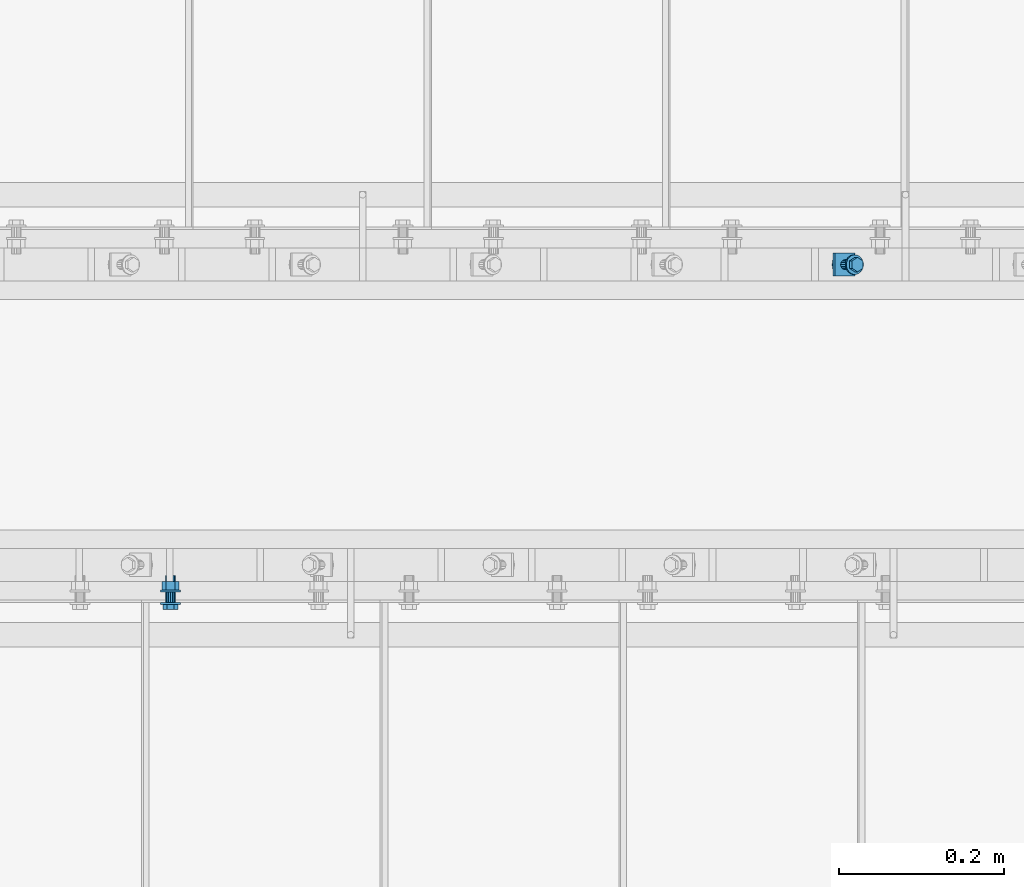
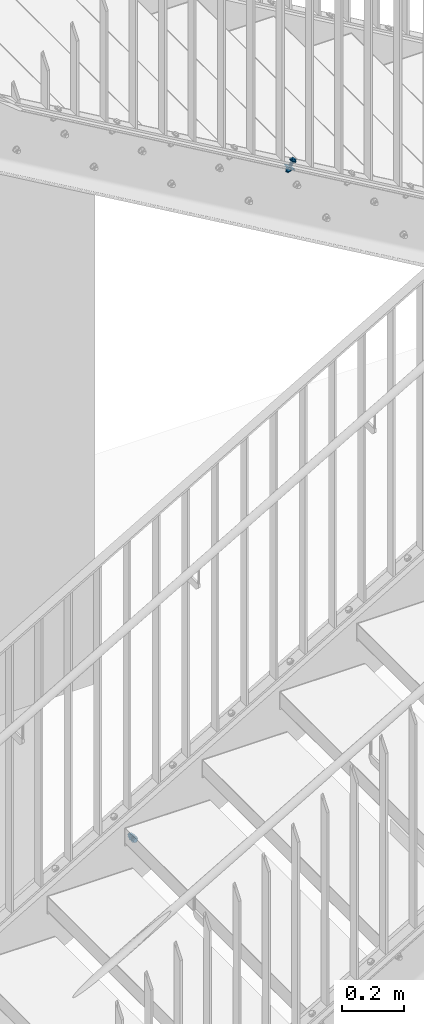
# One storey, part 85 of 145: 2 mechanical fasteners.
"""IFC2X3 building model written with IfcOpenShell, lengths in millimetres."""

from ifc_helpers import new_model, entity, si_unit, converted_unit, origin_with_axes, place, context, project, spatial, faceted_brep, element, save


model = new_model("IFC2X3")

# Units and contexts
model_context = context("Model", 3, precision=1e-09, world=origin_with_axes())
ifc_project = project(units=[si_unit("LENGTHUNIT", "METRE", prefix="MILLI"), si_unit("AREAUNIT", "SQUARE_METRE"), si_unit("VOLUMEUNIT", "CUBIC_METRE"), converted_unit("PLANEANGLEUNIT", "DEGREE", entity("IfcPlaneAngleMeasure", 0.01745329), si_unit("PLANEANGLEUNIT", "RADIAN"), dimensions=[0, 0, 0, 0, 0, 0, 0])], contexts=[model_context])

# Site, building, storey
site_placement = place(None, origin_with_axes())
site = spatial("IfcSite", under=ifc_project, at=site_placement, Name="BZ1 Grund- und Mittelschule 85716 Unterschlei?heim", CompositionType="ELEMENT")
building_placement = place(site_placement, origin_with_axes())
building = spatial("IfcBuilding", under=site, at=building_placement, Name="Struktur 1", CompositionType="ELEMENT")
storey_placement = place(building_placement, origin_with_axes())
storey = spatial("IfcBuildingStorey", under=building, at=storey_placement, Name="Default Storey", CompositionType="ELEMENT", Elevation=0.0)

# Mechanical fasteners
mechanical_fastener_1_placement = place(None, origin_with_axes())
element("IfcMechanicalFastener", 1, at=mechanical_fastener_1_placement, inside=storey, ObjectType="-", NominalDiameter=12.0, NominalLength=45.0, context=model_context, shape_type="Brep", body=[
    faceted_brep([(18700.736880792, -1512.502, 2468.872282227), (18701.993608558, -1512.502, 2471.033447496), (18701.794282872, -1514.843083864, 2471.14935632), (18700.537555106, -1514.843083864, 2468.988191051), (18701.203965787, -1517.094201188, 2471.49262848), (18699.947238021, -1517.094201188, 2469.331463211), (18700.245342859, -1519.168842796, 2472.050072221), (18698.988615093, -1519.168842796, 2469.888906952), (18698.955253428, -1520.987281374, 2472.800265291), (18697.698525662, -1520.987281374, 2470.639100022), (18697.383274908, -1522.479635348, 2473.714378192), (18696.126547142, -1522.479635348, 2471.553212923), (18695.589817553, -1523.58855439, 2474.757282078), (18694.333089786, -1523.58855439, 2472.596116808), (18693.643802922, -1524.271423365, 2475.888898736), (18692.387075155, -1524.271423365, 2473.727733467), (18691.620015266, -1524.502, 2477.065740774), (18690.363287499, -1524.502, 2474.904575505), (18689.59622761, -1524.271423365, 2478.242582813), (18688.339499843, -1524.271423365, 2476.081417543), (18687.650212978, -1523.58855439, 2479.374199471), (18686.393485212, -1523.58855439, 2477.213034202), (18685.856755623, -1522.479635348, 2480.417103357), (18684.600027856, -1522.479635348, 2478.255938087), (18684.284777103, -1520.987281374, 2481.331216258), (18683.028049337, -1520.987281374, 2479.170050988), (18682.994687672, -1519.168842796, 2482.081409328), (18681.737959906, -1519.168842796, 2479.920244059), (18682.036064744, -1517.094201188, 2482.638853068), (18680.779336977, -1517.094201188, 2480.477687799), (18681.445747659, -1514.843083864, 2482.982125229), (18680.189019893, -1514.843083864, 2480.82095996), (18681.246421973, -1512.502, 2483.098034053), (18679.989694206, -1512.502, 2480.936868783), (18681.445747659, -1510.160916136, 2482.982125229), (18680.189019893, -1510.160916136, 2480.82095996), (18682.036064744, -1507.909798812, 2482.638853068), (18680.779336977, -1507.909798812, 2480.477687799), (18682.994687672, -1505.835157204, 2482.081409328), (18681.737959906, -1505.835157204, 2479.920244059), (18684.284777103, -1504.016718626, 2481.331216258), (18683.028049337, -1504.016718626, 2479.170050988), (18685.856755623, -1502.524364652, 2480.417103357), (18684.600027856, -1502.524364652, 2478.255938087), (18687.650212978, -1501.41544561, 2479.374199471), (18686.393485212, -1501.41544561, 2477.213034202), (18689.59622761, -1500.732576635, 2478.242582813), (18688.339499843, -1500.732576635, 2476.081417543), (18691.620015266, -1500.502, 2477.065740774), (18690.363287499, -1500.502, 2474.904575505), (18693.643802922, -1500.732576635, 2475.888898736), (18692.387075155, -1500.732576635, 2473.727733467), (18695.589817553, -1501.41544561, 2474.757282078), (18694.333089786, -1501.41544561, 2472.596116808), (18697.383274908, -1502.524364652, 2473.714378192), (18696.126547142, -1502.524364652, 2471.553212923), (18698.955253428, -1504.016718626, 2472.800265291), (18697.698525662, -1504.016718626, 2470.639100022), (18700.245342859, -1505.835157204, 2472.050072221), (18698.988615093, -1505.835157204, 2469.888906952), (18701.203965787, -1507.909798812, 2471.49262848), (18699.947238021, -1507.909798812, 2469.331463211), (18701.794282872, -1510.160916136, 2471.14935632), (18700.537555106, -1510.160916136, 2468.988191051)], [[[0, 1, 2, 3]], [[3, 2, 4, 5]], [[5, 4, 6, 7]], [[7, 6, 8, 9]], [[9, 8, 10, 11]], [[11, 10, 12, 13]], [[13, 12, 14, 15]], [[15, 14, 16, 17]], [[17, 16, 18, 19]], [[19, 18, 20, 21]], [[21, 20, 22, 23]], [[23, 22, 24, 25]], [[25, 24, 26, 27]], [[27, 26, 28, 29]], [[29, 28, 30, 31]], [[31, 30, 32, 33]], [[33, 32, 34, 35]], [[35, 34, 36, 37]], [[37, 36, 38, 39]], [[39, 38, 40, 41]], [[41, 40, 42, 43]], [[43, 42, 44, 45]], [[45, 44, 46, 47]], [[47, 46, 48, 49]], [[49, 48, 50, 51]], [[51, 50, 52, 53]], [[53, 52, 54, 55]], [[55, 54, 56, 57]], [[57, 56, 58, 59]], [[59, 58, 60, 61]], [[61, 60, 62, 63]], [[63, 62, 1, 0]], [[2, 1, 62, 60, 58, 56, 54, 52, 50, 48, 46, 44, 42, 40, 38, 36, 34, 32, 30, 28, 26, 24, 22, 20, 18, 16, 14, 12, 10, 8, 6, 4]], [[63, 0, 3, 5, 7, 9, 11, 13, 15, 17, 19, 21, 23, 25, 27, 29, 31, 33, 35, 37, 39, 41, 43, 45, 47, 49, 51, 53, 55, 57, 59, 61]]]),
    faceted_brep([(18688.185486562, -1516.9445, 2486.466348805), (18684.968263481, -1516.9445, 2480.933765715), (18691.620015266, -1521.387, 2477.065740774), (18694.837238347, -1521.387, 2482.598323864), (18698.27176705, -1516.9445, 2473.197715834), (18701.488990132, -1516.9445, 2478.730298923), (18698.27176705, -1508.0595, 2473.197715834), (18701.488990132, -1508.0595, 2478.730298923), (18691.620015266, -1503.617, 2477.065740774), (18694.837238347, -1503.617, 2482.598323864), (18684.968263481, -1508.0595, 2480.933765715), (18688.185486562, -1508.0595, 2486.466348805)], [[[0, 1, 2, 3]], [[3, 2, 4, 5]], [[5, 4, 6, 7]], [[7, 6, 8, 9]], [[9, 8, 10, 11]], [[11, 10, 1, 0]], [[3, 5, 7, 9, 11, 0]], [[2, 1, 10, 8, 6, 4]]]),
    faceted_brep([(18684.650322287, -1512.502, 2453.144363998), (18695.550084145, -1512.502, 2471.888428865), (18695.15526276, -1514.798100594, 2472.118019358), (18684.255500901, -1514.798100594, 2453.37395449), (18694.03090658, -1516.744640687, 2472.771837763), (18683.131144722, -1516.744640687, 2454.027772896), (18692.348188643, -1518.045277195, 2473.750346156), (18681.448426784, -1518.045277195, 2455.006281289), (18690.363287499, -1518.502, 2474.904575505), (18679.46352564, -1518.502, 2456.160510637), (18688.378386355, -1518.045277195, 2476.058804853), (18677.478624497, -1518.045277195, 2457.314739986), (18686.695668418, -1516.744640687, 2477.037313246), (18675.795906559, -1516.744640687, 2458.293248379), (18685.571312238, -1514.798100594, 2477.691131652), (18674.67155038, -1514.798100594, 2458.947066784), (18685.176490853, -1512.502, 2477.920722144), (18674.276728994, -1512.502, 2459.176657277), (18685.571312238, -1510.205899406, 2477.691131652), (18674.67155038, -1510.205899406, 2458.947066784), (18686.695668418, -1508.259359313, 2477.037313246), (18675.795906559, -1508.259359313, 2458.293248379), (18688.378386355, -1506.958722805, 2476.058804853), (18677.478624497, -1506.958722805, 2457.314739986), (18690.363287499, -1506.502, 2474.904575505), (18679.46352564, -1506.502, 2456.160510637), (18692.348188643, -1506.958722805, 2473.750346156), (18681.448426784, -1506.958722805, 2455.006281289), (18694.03090658, -1508.259359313, 2472.771837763), (18683.131144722, -1508.259359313, 2454.027772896), (18695.15526276, -1510.205899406, 2472.118019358), (18684.255500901, -1510.205899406, 2453.37395449)], [[[0, 1, 2, 3]], [[3, 2, 4, 5]], [[5, 4, 6, 7]], [[7, 6, 8, 9]], [[9, 8, 10, 11]], [[11, 10, 12, 13]], [[13, 12, 14, 15]], [[15, 14, 16, 17]], [[17, 16, 18, 19]], [[19, 18, 20, 21]], [[21, 20, 22, 23]], [[23, 22, 24, 25]], [[25, 24, 26, 27]], [[27, 26, 28, 29]], [[29, 28, 30, 31]], [[31, 30, 1, 0]], [[2, 1, 30, 28, 26, 24, 22, 20, 18, 16, 14, 12, 10, 8, 6, 4]], [[31, 0, 3, 5, 7, 9, 11, 13, 15, 17, 19, 21, 23, 25, 27, 29]]]),
    faceted_brep([(18667.238128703, -1526.644135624, 2463.269636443), (18665.227364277, -1526.644135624, 2459.811772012), (18689.678158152, -1526.644135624, 2445.593520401), (18691.688922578, -1526.644135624, 2449.051384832), (18689.678158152, -1498.359864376, 2445.593520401), (18691.688922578, -1498.359864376, 2449.051384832), (18665.227364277, -1498.359864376, 2459.811772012), (18667.238128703, -1498.359864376, 2463.269636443)], [[[0, 1, 2, 3]], [[3, 2, 4, 5]], [[5, 4, 6, 7]], [[7, 6, 1, 0]], [[3, 5, 7, 0]], [[2, 1, 6, 4]]]),
    faceted_brep([(18669.554507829, -1517.777, 2457.295517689), (18664.527596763, -1517.777, 2448.650856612), (18672.425850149, -1523.052, 2444.057985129), (18677.452761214, -1523.052, 2452.702646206), (18680.324103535, -1517.777, 2439.465113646), (18685.3510146, -1517.777, 2448.109774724), (18680.324103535, -1507.227, 2439.465113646), (18685.3510146, -1507.227, 2448.109774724), (18672.425850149, -1501.952, 2444.057985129), (18677.452761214, -1501.952, 2452.702646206), (18664.527596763, -1507.227, 2448.650856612), (18669.554507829, -1507.227, 2457.295517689)], [[[0, 1, 2, 3]], [[3, 2, 4, 5]], [[5, 4, 6, 7]], [[7, 6, 8, 9]], [[9, 8, 10, 11]], [[11, 10, 1, 0]], [[3, 5, 7, 9, 11, 0]], [[2, 1, 10, 8, 6, 4]]]),
    faceted_brep([(18674.185712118, -1512.502, 2435.148619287), (18677.612646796, -1512.502, 2441.04183849), (18677.21782541, -1514.798100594, 2441.271428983), (18673.790890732, -1514.798100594, 2435.37820978), (18676.093469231, -1516.744640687, 2441.925247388), (18672.666534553, -1516.744640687, 2436.032028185), (18674.410751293, -1518.045277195, 2442.903755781), (18670.983816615, -1518.045277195, 2437.010536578), (18672.425850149, -1518.502, 2444.05798513), (18668.998915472, -1518.502, 2438.164765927), (18670.440949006, -1518.045277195, 2445.212214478), (18667.014014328, -1518.045277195, 2439.318995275), (18668.758231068, -1516.744640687, 2446.190722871), (18665.33129639, -1516.744640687, 2440.297503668), (18667.633874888, -1514.798100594, 2446.844541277), (18664.206940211, -1514.798100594, 2440.951322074), (18667.239053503, -1512.502, 2447.074131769), (18663.812118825, -1512.502, 2441.180912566), (18667.633874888, -1510.205899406, 2446.844541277), (18664.206940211, -1510.205899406, 2440.951322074), (18668.758231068, -1508.259359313, 2446.190722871), (18665.33129639, -1508.259359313, 2440.297503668), (18670.440949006, -1506.958722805, 2445.212214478), (18667.014014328, -1506.958722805, 2439.318995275), (18672.425850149, -1506.502, 2444.05798513), (18668.998915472, -1506.502, 2438.164765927), (18674.410751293, -1506.958722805, 2442.903755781), (18670.983816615, -1506.958722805, 2437.010536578), (18676.093469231, -1508.259359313, 2441.925247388), (18672.666534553, -1508.259359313, 2436.032028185), (18677.21782541, -1510.205899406, 2441.271428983), (18673.790890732, -1510.205899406, 2435.37820978)], [[[0, 1, 2, 3]], [[3, 2, 4, 5]], [[5, 4, 6, 7]], [[7, 6, 8, 9]], [[9, 8, 10, 11]], [[11, 10, 12, 13]], [[13, 12, 14, 15]], [[15, 14, 16, 17]], [[17, 16, 18, 19]], [[19, 18, 20, 21]], [[21, 20, 22, 23]], [[23, 22, 24, 25]], [[25, 24, 26, 27]], [[27, 26, 28, 29]], [[29, 28, 30, 31]], [[31, 30, 1, 0]], [[2, 1, 30, 28, 26, 24, 22, 20, 18, 16, 14, 12, 10, 8, 6, 4]], [[31, 0, 3, 5, 7, 9, 11, 13, 15, 17, 19, 21, 23, 25, 27, 29]]]),
])
mechanical_fastener_2_placement = place(None, origin_with_axes())
element("IfcMechanicalFastener", 2, at=mechanical_fastener_2_placement, inside=storey, ObjectType="-", NominalDiameter=12.0, NominalLength=35.0, context=model_context, shape_type="Brep", body=[
    faceted_brep([(17859.545399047, -1923.002, 316.181818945), (17859.545399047, -1925.502, 316.181818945), (17857.204315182, -1925.502, 316.412395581), (17857.204315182, -1923.002, 316.412395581), (17854.953197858, -1925.502, 317.095264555), (17854.953197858, -1923.002, 317.095264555), (17852.87855625, -1925.502, 318.204183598), (17852.87855625, -1923.002, 318.204183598), (17851.060117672, -1925.502, 319.696537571), (17851.060117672, -1923.002, 319.696537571), (17849.567763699, -1925.502, 321.514976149), (17849.567763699, -1923.002, 321.514976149), (17848.458844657, -1925.502, 323.589617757), (17848.458844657, -1923.002, 323.589617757), (17847.775975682, -1925.502, 325.840735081), (17847.775975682, -1923.002, 325.840735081), (17847.545399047, -1925.502, 328.181818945), (17847.545399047, -1923.002, 328.181818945), (17847.775975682, -1925.502, 330.52290281), (17847.775975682, -1923.002, 330.52290281), (17848.458844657, -1925.502, 332.774020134), (17848.458844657, -1923.002, 332.774020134), (17849.567763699, -1925.502, 334.848661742), (17849.567763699, -1923.002, 334.848661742), (17851.060117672, -1925.502, 336.66710032), (17851.060117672, -1923.002, 336.66710032), (17852.87855625, -1925.502, 338.159454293), (17852.87855625, -1923.002, 338.159454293), (17854.953197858, -1925.502, 339.268373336), (17854.953197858, -1923.002, 339.268373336), (17857.204315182, -1925.502, 339.95124231), (17857.204315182, -1923.002, 339.95124231), (17859.545399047, -1925.502, 340.181818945), (17859.545399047, -1923.002, 340.181818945), (17861.886482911, -1925.502, 339.95124231), (17861.886482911, -1923.002, 339.95124231), (17864.137600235, -1925.502, 339.268373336), (17864.137600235, -1923.002, 339.268373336), (17866.212241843, -1925.502, 338.159454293), (17866.212241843, -1923.002, 338.159454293), (17868.030680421, -1925.502, 336.66710032), (17868.030680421, -1923.002, 336.66710032), (17869.523034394, -1925.502, 334.848661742), (17869.523034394, -1923.002, 334.848661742), (17870.631953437, -1925.502, 332.774020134), (17870.631953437, -1923.002, 332.774020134), (17871.314822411, -1925.502, 330.52290281), (17871.314822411, -1923.002, 330.52290281), (17871.545399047, -1925.502, 328.181818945), (17871.545399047, -1923.002, 328.181818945), (17871.314822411, -1925.502, 325.840735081), (17871.314822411, -1923.002, 325.840735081), (17870.631953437, -1925.502, 323.589617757), (17870.631953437, -1923.002, 323.589617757), (17869.523034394, -1925.502, 321.514976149), (17869.523034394, -1923.002, 321.514976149), (17868.030680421, -1925.502, 319.696537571), (17868.030680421, -1923.002, 319.696537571), (17866.212241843, -1925.502, 318.204183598), (17866.212241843, -1923.002, 318.204183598), (17864.137600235, -1925.502, 317.095264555), (17864.137600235, -1923.002, 317.095264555), (17861.886482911, -1925.502, 316.412395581), (17861.886482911, -1923.002, 316.412395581)], [[[0, 1, 2, 3]], [[3, 2, 4, 5]], [[5, 4, 6, 7]], [[7, 6, 8, 9]], [[9, 8, 10, 11]], [[11, 10, 12, 13]], [[13, 12, 14, 15]], [[15, 14, 16, 17]], [[17, 16, 18, 19]], [[19, 18, 20, 21]], [[21, 20, 22, 23]], [[23, 22, 24, 25]], [[25, 24, 26, 27]], [[27, 26, 28, 29]], [[29, 28, 30, 31]], [[31, 30, 32, 33]], [[33, 32, 34, 35]], [[35, 34, 36, 37]], [[37, 36, 38, 39]], [[39, 38, 40, 41]], [[41, 40, 42, 43]], [[43, 42, 44, 45]], [[45, 44, 46, 47]], [[47, 46, 48, 49]], [[49, 48, 50, 51]], [[51, 50, 52, 53]], [[53, 52, 54, 55]], [[55, 54, 56, 57]], [[57, 56, 58, 59]], [[59, 58, 60, 61]], [[61, 60, 62, 63]], [[63, 62, 1, 0]], [[2, 1, 62, 60, 58, 56, 54, 52, 50, 48, 46, 44, 42, 40, 38, 36, 34, 32, 30, 28, 26, 24, 22, 20, 18, 16, 14, 12, 10, 8, 6, 4]], [[63, 0, 3, 5, 7, 9, 11, 13, 15, 17, 19, 21, 23, 25, 27, 29, 31, 33, 35, 37, 39, 41, 43, 45, 47, 49, 51, 53, 55, 57, 59, 61]]]),
    faceted_brep([(17855.102899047, -1931.902, 335.876454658), (17855.102899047, -1925.502, 335.876454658), (17850.660399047, -1925.502, 328.181818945), (17850.660399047, -1931.902, 328.181818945), (17855.102899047, -1925.502, 320.487183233), (17855.102899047, -1931.902, 320.487183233), (17863.987899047, -1925.502, 320.487183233), (17863.987899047, -1931.902, 320.487183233), (17868.430399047, -1925.502, 328.181818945), (17868.430399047, -1931.902, 328.181818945), (17863.987899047, -1925.502, 335.876454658), (17863.987899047, -1931.902, 335.876454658)], [[[0, 1, 2, 3]], [[3, 2, 4, 5]], [[5, 4, 6, 7]], [[7, 6, 8, 9]], [[9, 8, 10, 11]], [[11, 10, 1, 0]], [[3, 5, 7, 9, 11, 0]], [[2, 1, 10, 8, 6, 4]]]),
    faceted_brep([(17859.545399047, -1910.502, 322.181818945), (17859.545399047, -1923.002, 322.181818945), (17857.249298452, -1923.002, 322.63854175), (17857.249298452, -1910.502, 322.63854175), (17855.30275836, -1923.002, 323.939178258), (17855.30275836, -1910.502, 323.939178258), (17854.002121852, -1923.002, 325.885718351), (17854.002121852, -1910.502, 325.885718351), (17853.545399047, -1923.002, 328.181818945), (17853.545399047, -1910.502, 328.181818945), (17854.002121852, -1923.002, 330.47791954), (17854.002121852, -1910.502, 330.47791954), (17855.30275836, -1923.002, 332.424459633), (17855.30275836, -1910.502, 332.424459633), (17857.249298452, -1923.002, 333.725096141), (17857.249298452, -1910.502, 333.725096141), (17859.545399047, -1923.002, 334.181818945), (17859.545399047, -1910.502, 334.181818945), (17861.841499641, -1923.002, 333.725096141), (17861.841499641, -1910.502, 333.725096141), (17863.788039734, -1923.002, 332.424459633), (17863.788039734, -1910.502, 332.424459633), (17865.088676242, -1923.002, 330.47791954), (17865.088676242, -1910.502, 330.47791954), (17865.545399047, -1923.002, 328.181818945), (17865.545399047, -1910.502, 328.181818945), (17865.088676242, -1923.002, 325.885718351), (17865.088676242, -1910.502, 325.885718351), (17863.788039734, -1923.002, 323.939178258), (17863.788039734, -1910.502, 323.939178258), (17861.841499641, -1923.002, 322.63854175), (17861.841499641, -1910.502, 322.63854175)], [[[0, 1, 2, 3]], [[3, 2, 4, 5]], [[5, 4, 6, 7]], [[7, 6, 8, 9]], [[9, 8, 10, 11]], [[11, 10, 12, 13]], [[13, 12, 14, 15]], [[15, 14, 16, 17]], [[17, 16, 18, 19]], [[19, 18, 20, 21]], [[21, 20, 22, 23]], [[23, 22, 24, 25]], [[25, 24, 26, 27]], [[27, 26, 28, 29]], [[29, 28, 30, 31]], [[31, 30, 1, 0]], [[2, 1, 30, 28, 26, 24, 22, 20, 18, 16, 14, 12, 10, 8, 6, 4]], [[31, 0, 3, 5, 7, 9, 11, 13, 15, 17, 19, 21, 23, 25, 27, 29]]]),
    faceted_brep([(17859.545399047, -1908.002, 316.181818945), (17859.545399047, -1910.502, 316.181818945), (17857.204315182, -1910.502, 316.412395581), (17857.204315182, -1908.002, 316.412395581), (17854.953197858, -1910.502, 317.095264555), (17854.953197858, -1908.002, 317.095264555), (17852.87855625, -1910.502, 318.204183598), (17852.87855625, -1908.002, 318.204183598), (17851.060117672, -1910.502, 319.696537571), (17851.060117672, -1908.002, 319.696537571), (17849.567763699, -1910.502, 321.514976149), (17849.567763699, -1908.002, 321.514976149), (17848.458844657, -1910.502, 323.589617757), (17848.458844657, -1908.002, 323.589617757), (17847.775975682, -1910.502, 325.840735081), (17847.775975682, -1908.002, 325.840735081), (17847.545399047, -1910.502, 328.181818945), (17847.545399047, -1908.002, 328.181818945), (17847.775975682, -1910.502, 330.52290281), (17847.775975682, -1908.002, 330.52290281), (17848.458844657, -1910.502, 332.774020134), (17848.458844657, -1908.002, 332.774020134), (17849.567763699, -1910.502, 334.848661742), (17849.567763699, -1908.002, 334.848661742), (17851.060117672, -1910.502, 336.66710032), (17851.060117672, -1908.002, 336.66710032), (17852.87855625, -1910.502, 338.159454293), (17852.87855625, -1908.002, 338.159454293), (17854.953197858, -1910.502, 339.268373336), (17854.953197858, -1908.002, 339.268373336), (17857.204315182, -1910.502, 339.95124231), (17857.204315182, -1908.002, 339.95124231), (17859.545399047, -1910.502, 340.181818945), (17859.545399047, -1908.002, 340.181818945), (17861.886482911, -1910.502, 339.95124231), (17861.886482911, -1908.002, 339.95124231), (17864.137600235, -1910.502, 339.268373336), (17864.137600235, -1908.002, 339.268373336), (17866.212241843, -1910.502, 338.159454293), (17866.212241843, -1908.002, 338.159454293), (17868.030680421, -1910.502, 336.66710032), (17868.030680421, -1908.002, 336.66710032), (17869.523034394, -1910.502, 334.848661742), (17869.523034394, -1908.002, 334.848661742), (17870.631953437, -1910.502, 332.774020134), (17870.631953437, -1908.002, 332.774020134), (17871.314822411, -1910.502, 330.52290281), (17871.314822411, -1908.002, 330.52290281), (17871.545399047, -1910.502, 328.181818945), (17871.545399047, -1908.002, 328.181818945), (17871.314822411, -1910.502, 325.840735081), (17871.314822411, -1908.002, 325.840735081), (17870.631953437, -1910.502, 323.589617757), (17870.631953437, -1908.002, 323.589617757), (17869.523034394, -1910.502, 321.514976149), (17869.523034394, -1908.002, 321.514976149), (17868.030680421, -1910.502, 319.696537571), (17868.030680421, -1908.002, 319.696537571), (17866.212241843, -1910.502, 318.204183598), (17866.212241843, -1908.002, 318.204183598), (17864.137600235, -1910.502, 317.095264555), (17864.137600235, -1908.002, 317.095264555), (17861.886482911, -1910.502, 316.412395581), (17861.886482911, -1908.002, 316.412395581)], [[[0, 1, 2, 3]], [[3, 2, 4, 5]], [[5, 4, 6, 7]], [[7, 6, 8, 9]], [[9, 8, 10, 11]], [[11, 10, 12, 13]], [[13, 12, 14, 15]], [[15, 14, 16, 17]], [[17, 16, 18, 19]], [[19, 18, 20, 21]], [[21, 20, 22, 23]], [[23, 22, 24, 25]], [[25, 24, 26, 27]], [[27, 26, 28, 29]], [[29, 28, 30, 31]], [[31, 30, 32, 33]], [[33, 32, 34, 35]], [[35, 34, 36, 37]], [[37, 36, 38, 39]], [[39, 38, 40, 41]], [[41, 40, 42, 43]], [[43, 42, 44, 45]], [[45, 44, 46, 47]], [[47, 46, 48, 49]], [[49, 48, 50, 51]], [[51, 50, 52, 53]], [[53, 52, 54, 55]], [[55, 54, 56, 57]], [[57, 56, 58, 59]], [[59, 58, 60, 61]], [[61, 60, 62, 63]], [[63, 62, 1, 0]], [[2, 1, 62, 60, 58, 56, 54, 52, 50, 48, 46, 44, 42, 40, 38, 36, 34, 32, 30, 28, 26, 24, 22, 20, 18, 16, 14, 12, 10, 8, 6, 4]], [[63, 0, 3, 5, 7, 9, 11, 13, 15, 17, 19, 21, 23, 25, 27, 29, 31, 33, 35, 37, 39, 41, 43, 45, 47, 49, 51, 53, 55, 57, 59, 61]]]),
    faceted_brep([(17854.270399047, -1908.002, 337.318386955), (17854.270399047, -1898.002, 337.318386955), (17848.995399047, -1898.002, 328.181818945), (17848.995399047, -1908.002, 328.181818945), (17854.270399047, -1898.002, 319.045250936), (17854.270399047, -1908.002, 319.045250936), (17864.820399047, -1898.002, 319.045250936), (17864.820399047, -1908.002, 319.045250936), (17870.095399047, -1898.002, 328.181818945), (17870.095399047, -1908.002, 328.181818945), (17864.820399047, -1898.002, 337.318386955), (17864.820399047, -1908.002, 337.318386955)], [[[0, 1, 2, 3]], [[3, 2, 4, 5]], [[5, 4, 6, 7]], [[7, 6, 8, 9]], [[9, 8, 10, 11]], [[11, 10, 1, 0]], [[3, 5, 7, 9, 11, 0]], [[2, 1, 10, 8, 6, 4]]]),
    faceted_brep([(17859.545399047, -1890.502, 322.181818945), (17859.545399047, -1898.002, 322.181818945), (17857.249298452, -1898.002, 322.63854175), (17857.249298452, -1890.502, 322.63854175), (17855.30275836, -1898.002, 323.939178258), (17855.30275836, -1890.502, 323.939178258), (17854.002121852, -1898.002, 325.885718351), (17854.002121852, -1890.502, 325.885718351), (17853.545399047, -1898.002, 328.181818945), (17853.545399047, -1890.502, 328.181818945), (17854.002121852, -1898.002, 330.47791954), (17854.002121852, -1890.502, 330.47791954), (17855.30275836, -1898.002, 332.424459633), (17855.30275836, -1890.502, 332.424459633), (17857.249298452, -1898.002, 333.725096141), (17857.249298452, -1890.502, 333.725096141), (17859.545399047, -1898.002, 334.181818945), (17859.545399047, -1890.502, 334.181818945), (17861.841499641, -1898.002, 333.725096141), (17861.841499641, -1890.502, 333.725096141), (17863.788039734, -1898.002, 332.424459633), (17863.788039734, -1890.502, 332.424459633), (17865.088676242, -1898.002, 330.47791954), (17865.088676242, -1890.502, 330.47791954), (17865.545399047, -1898.002, 328.181818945), (17865.545399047, -1890.502, 328.181818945), (17865.088676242, -1898.002, 325.885718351), (17865.088676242, -1890.502, 325.885718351), (17863.788039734, -1898.002, 323.939178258), (17863.788039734, -1890.502, 323.939178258), (17861.841499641, -1898.002, 322.63854175), (17861.841499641, -1890.502, 322.63854175)], [[[0, 1, 2, 3]], [[3, 2, 4, 5]], [[5, 4, 6, 7]], [[7, 6, 8, 9]], [[9, 8, 10, 11]], [[11, 10, 12, 13]], [[13, 12, 14, 15]], [[15, 14, 16, 17]], [[17, 16, 18, 19]], [[19, 18, 20, 21]], [[21, 20, 22, 23]], [[23, 22, 24, 25]], [[25, 24, 26, 27]], [[27, 26, 28, 29]], [[29, 28, 30, 31]], [[31, 30, 1, 0]], [[2, 1, 30, 28, 26, 24, 22, 20, 18, 16, 14, 12, 10, 8, 6, 4]], [[31, 0, 3, 5, 7, 9, 11, 13, 15, 17, 19, 21, 23, 25, 27, 29]]]),
])

save(model, "model.ifc")
